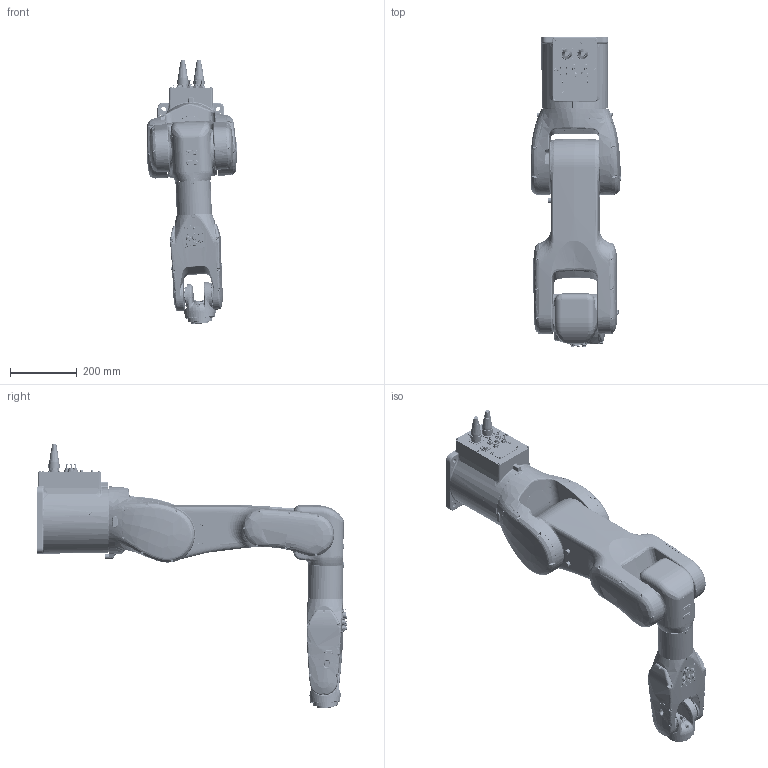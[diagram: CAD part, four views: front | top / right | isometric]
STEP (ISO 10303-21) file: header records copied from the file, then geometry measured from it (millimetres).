
FILE_DESCRIPTION (( 'STEP AP214' ), '1' );
FILE_NAME ('RH09-07 小型六轴机器人_简化模型.STEP', '2025-12-25T08:07:23', ( 'Windows User' ), ( 'P R C' ), 'SwSTEP 2.0', 'SolidWorks 2021', '' );
FILE_SCHEMA (( 'AUTOMOTIVE_DESIGN' ));
Length unit declared in the file: millimetre
Products named in the file (8): RH09-07_0401; RH07-08_04; RA09A-07_03; RH07-08_06; RH07-08_05; RA07A-08_02; RH07-08_01; RH09-07 小型六轴机器人_简化模型
Assembly tree (7 placements, depth 2):
  RH09-07 小型六轴机器人_简化模型
    RH07-08_01
    RA07A-08_02
    RA09A-07_03
    RH07-08_04
    RH09-07_0401
    RH07-08_05
    RH07-08_06
Bounding box: 272.04 x 926.65 x 788.4 mm (x, y, z)
Volume: 31388340.5 mm3; surface area: 1670443.6 mm2
Topology: 175 solids, 182 shells, 8736 faces, 20513 edges, 12264 vertices
Faces by surface type: plane 2944, cylinder 2506, cone 1328, bspline 1277, torus 570, sphere 111
Entity records: 446872 total; most frequent: CARTESIAN_POINT 198121, DIRECTION 40118, ORIENTED_EDGE 39986, EDGE_CURVE 19993, AXIS2_PLACEMENT_3D 16200, VERTEX_POINT 12242, EDGE_LOOP 9697, FACE_OUTER_BOUND 8735
